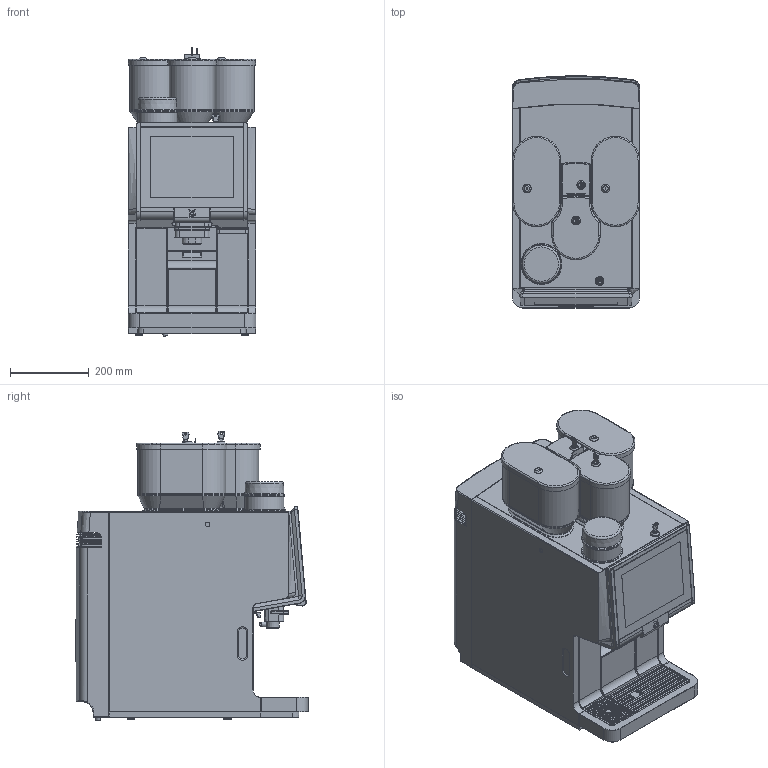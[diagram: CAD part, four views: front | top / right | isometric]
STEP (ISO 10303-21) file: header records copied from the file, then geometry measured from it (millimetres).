
FILE_DESCRIPTION(/* description */ (''),/* implementation_level */ '2;1');
FILE_NAME(/* name */ 'D:\Projekte\WMF\1920\1920_3D.stp',/* time_stamp */ '2018-08-29T00:00:12+02:00',/* author */ ('Andreas'),/* organization */ (''),/* preprocessor_version */ 'ST-DEVELOPER v17',/* originating_system */ 'Autodesk Inventor 2018',/* authorisation */ '');
FILE_SCHEMA (('AUTOMOTIVE_DESIGN { 1 0 10303 214 3 1 1 }'));
Products named in the file (1): 1920_10
Bounding box: 325 x 590 x 734.95 mm (x, y, z)
Surface area: 1959360.7 mm2 (no closed solid volume)
Topology: 0 solids, 1 shells, 2231 faces, 5932 edges, 3692 vertices
Faces by surface type: plane 902, cylinder 652, bspline 380, torus 142, cone 124, sphere 31
Full cylindrical faces by diameter (mm): 3 x41, 3.2 x2, 4.2 x2, 5 x3, 7.2 x1, 8.5 x1, 8.8 x1, 10 x1, 12 x3, 13 x3, 16 x1, 17 x4, 20 x1, 22 x5, 99 x1
Entity records: 86966 total; most frequent: CARTESIAN_POINT 32354, ORIENTED_EDGE 11808, DIRECTION 11066, EDGE_CURVE 5904, AXIS2_PLACEMENT_3D 4111, VERTEX_POINT 3692, LINE 2844, VECTOR 2844
